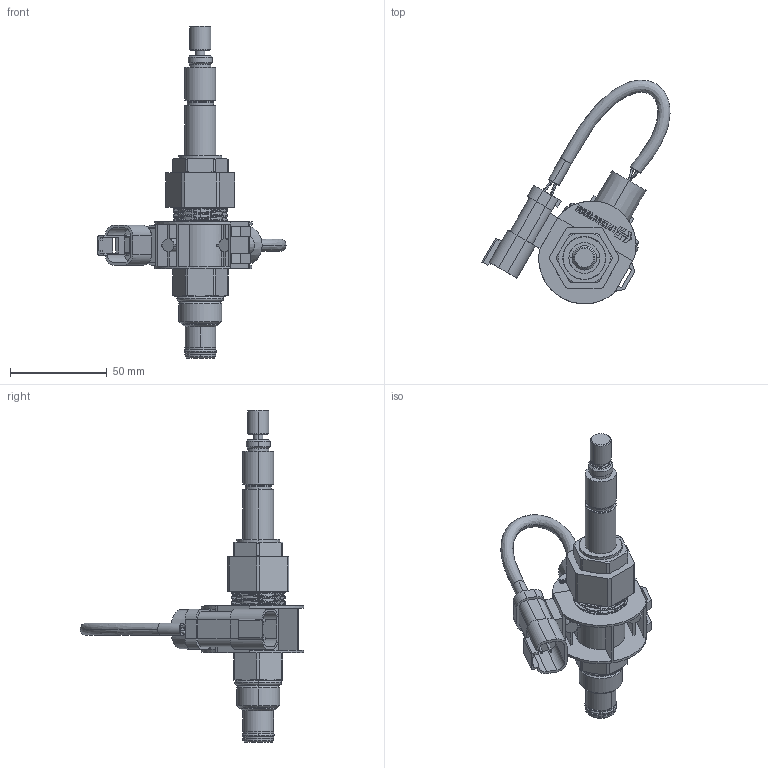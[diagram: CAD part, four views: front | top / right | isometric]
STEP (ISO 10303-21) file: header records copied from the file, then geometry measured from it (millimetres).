
FILE_DESCRIPTION((''),'2;1');
FILE_NAME('ASM0002_ASM','2021-06-24T15:24:13',('CY1'),(''),'CREO PARAMETRIC BY PTC INC, 2018020','CREO PARAMETRIC BY PTC INC, 2018020','');
FILE_SCHEMA(('CONFIG_CONTROL_DESIGN'));
Products named in the file (3): PRT0002; PRT0004; ASM0002_ASM
Assembly tree (2 placements, depth 2):
  ASM0002_ASM
    PRT0002
    PRT0004
Bounding box: 97.04 x 115.46 x 171.32 mm (x, y, z)
Volume: 97218 mm3; surface area: 43417.8 mm2
Topology: 2 solids, 3 shells, 905 faces, 2548 edges, 1650 vertices
Faces by surface type: plane 411, cylinder 250, cone 76, bspline 66, extrusion 64, torus 30, sphere 8
Entity records: 39829 total; most frequent: CARTESIAN_POINT 17553, ORIENTED_EDGE 5072, DIRECTION 3880, EDGE_CURVE 2536, VERTEX_POINT 1650, VECTOR 1416, LINE 1352, AXIS2_PLACEMENT_3D 1232
